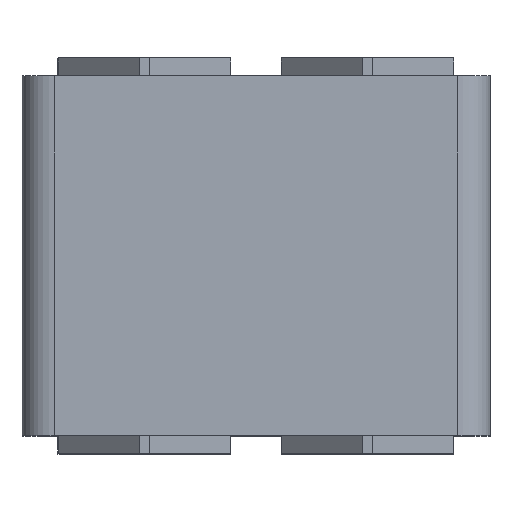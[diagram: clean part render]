
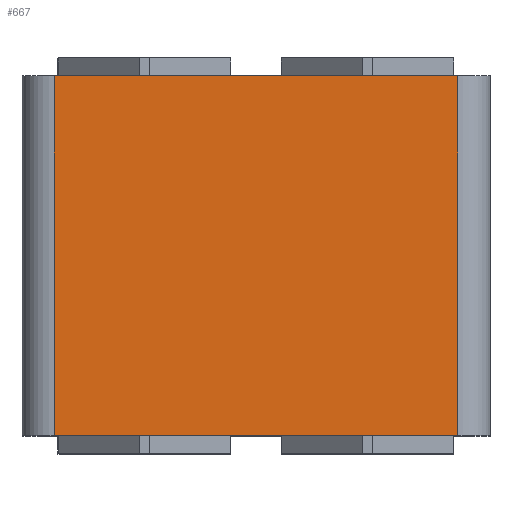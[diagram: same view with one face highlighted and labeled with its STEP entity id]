
A CAD part, top view. The second image highlights one B-rep face of the part: STEP entity #667.
In plain terms, the highlighted planar face has unit normal (0, 0, 1).
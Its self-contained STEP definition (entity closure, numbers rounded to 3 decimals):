
#602=CARTESIAN_POINT('',(12.5,50.0,17.0));
#603=VERTEX_POINT('',#602);
#611=CARTESIAN_POINT('',(12.5,0.0,17.0));
#612=VERTEX_POINT('',#611);
#613=CARTESIAN_POINT('',(12.5,0.0,17.0));
#614=DIRECTION('',(0.0,1.0,0.0));
#615=VECTOR('',#614,50.0);
#616=LINE('',#613,#615);
#617=EDGE_CURVE('',#612,#603,#616,.T.);
#637=CARTESIAN_POINT('',(12.5,0.0,17.0));
#638=DIRECTION('',(0.0,0.0,1.0));
#639=DIRECTION('',(1.0,0.0,0.0));
#640=AXIS2_PLACEMENT_3D('',#637,#638,#639);
#641=PLANE('',#640);
#642=CARTESIAN_POINT('',(-43.5,50.0,17.0));
#643=VERTEX_POINT('',#642);
#644=CARTESIAN_POINT('',(12.5,50.0,17.0));
#645=DIRECTION('',(-1.0,0.0,0.0));
#646=VECTOR('',#645,56.);
#647=LINE('',#644,#646);
#648=EDGE_CURVE('',#603,#643,#647,.T.);
#649=ORIENTED_EDGE('',*,*,#648,.T.);
#650=CARTESIAN_POINT('',(-43.5,0.0,17.0));
#651=VERTEX_POINT('',#650);
#652=CARTESIAN_POINT('',(-43.5,0.0,17.0));
#653=DIRECTION('',(0.0,1.0,0.0));
#654=VECTOR('',#653,50.0);
#655=LINE('',#652,#654);
#656=EDGE_CURVE('',#651,#643,#655,.T.);
#657=ORIENTED_EDGE('',*,*,#656,.F.);
#658=CARTESIAN_POINT('',(-43.5,0.0,17.0));
#659=DIRECTION('',(1.0,0.0,0.0));
#660=VECTOR('',#659,56.);
#661=LINE('',#658,#660);
#662=EDGE_CURVE('',#651,#612,#661,.T.);
#663=ORIENTED_EDGE('',*,*,#662,.T.);
#664=ORIENTED_EDGE('',*,*,#617,.T.);
#665=EDGE_LOOP('',(#649,#657,#663,#664));
#666=FACE_OUTER_BOUND('',#665,.T.);
#667=ADVANCED_FACE('',(#666),#641,.T.);
